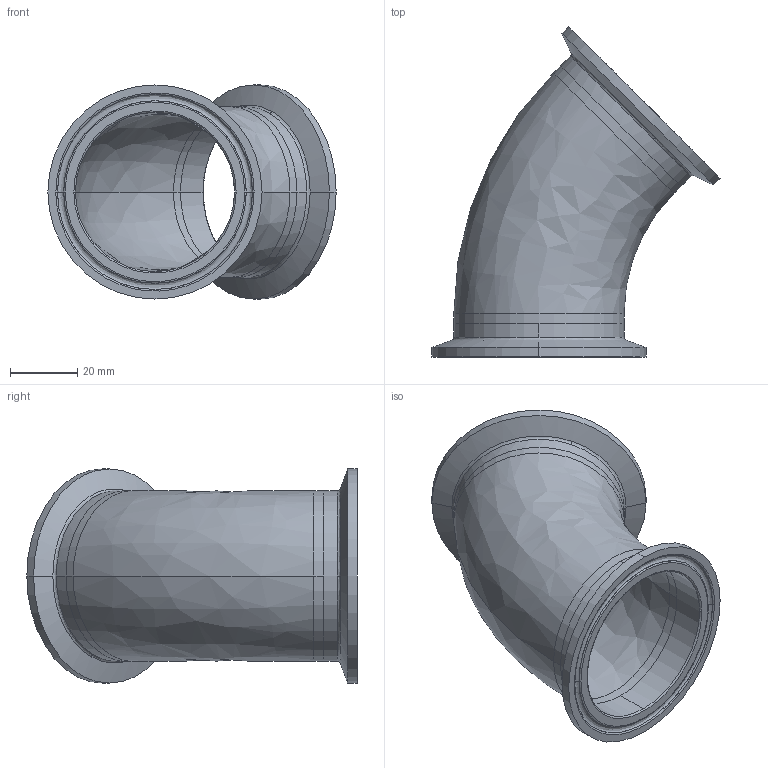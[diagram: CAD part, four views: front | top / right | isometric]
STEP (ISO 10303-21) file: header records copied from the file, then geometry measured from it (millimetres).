
FILE_DESCRIPTION (( 'STEP AP214' ), '1' );
FILE_NAME ('TEG2K6L2.0-...STEP', '2016-05-22T07:34:35', ( 'eran' ), ( '' ), 'SwSTEP 2.0', 'SolidWorks 2016', '' );
FILE_SCHEMA (( 'AUTOMOTIVE_DESIGN' ));
Length unit declared in the file: millimetre
Products named in the file (1): TEG2K6L2.0-..
Bounding box: 86.01 x 98.56 x 63.91 mm (x, y, z)
Volume: 30820.5 mm3; surface area: 32441.6 mm2
Topology: 3 solids, 3 shells, 64 faces, 156 edges, 100 vertices
Faces by surface type: bspline 24, cylinder 20, cone 12, plane 8
Entity records: 3255 total; most frequent: CARTESIAN_POINT 1699, DIRECTION 338, ORIENTED_EDGE 312, EDGE_CURVE 156, AXIS2_PLACEMENT_3D 153, CIRCLE 112, VERTEX_POINT 100, EDGE_LOOP 72
